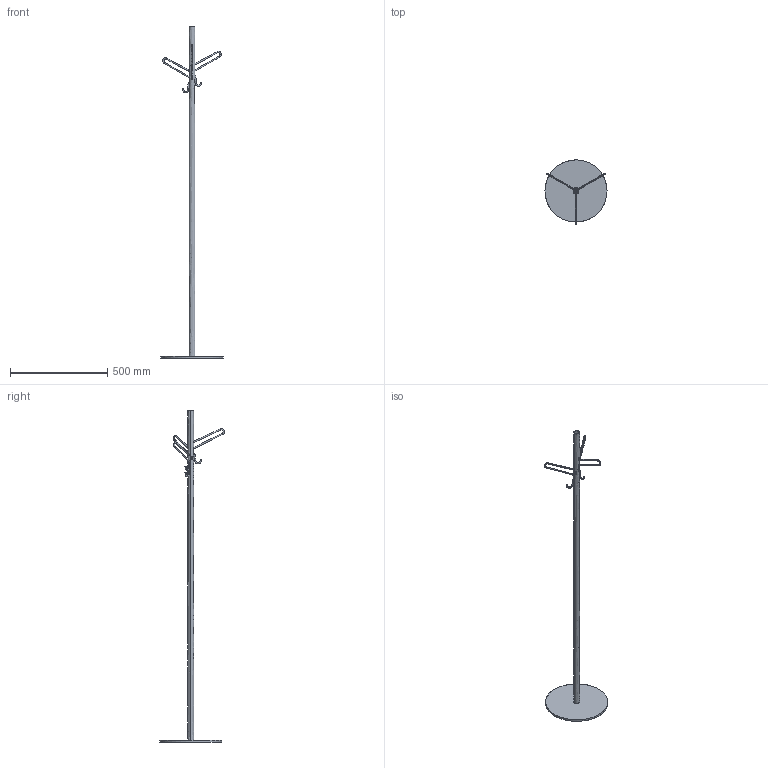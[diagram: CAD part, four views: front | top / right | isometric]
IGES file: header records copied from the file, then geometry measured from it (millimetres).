
Global section: file name: C:\Users\Bariani_F\Desktop\DANESE FRANCESCO\DANESE SPACE 2020\ALESSANDRO GNOCCHI\APPENDIABITI\TIKI TERRA.igs; native system: Rhinoceros ( Mar  9 2011 ); preprocessor: Trout Lake IGES 012 Mar  9 2011; date: 201022.162052; units: millimetre
Bounding box: 320 x 333.23 x 1710.08 mm (x, y, z)
Surface area: 499847.2 mm2 (no closed solid volume)
Topology: 0 solids, 0 shells, 124 faces, 2025 edges, 2025 vertices
Faces by surface type: bspline 124
